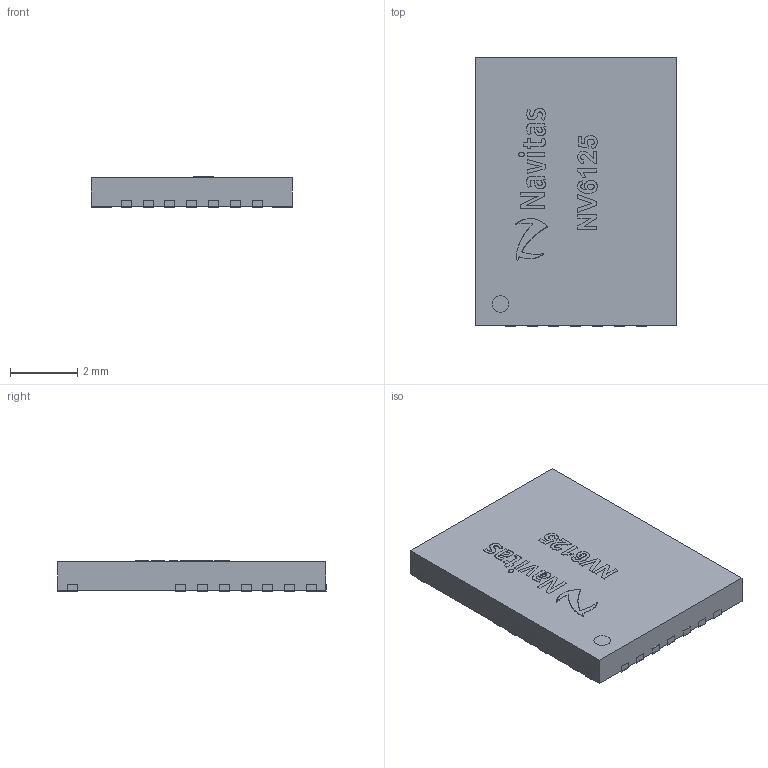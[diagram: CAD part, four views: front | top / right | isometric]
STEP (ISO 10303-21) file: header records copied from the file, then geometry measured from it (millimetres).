
FILE_DESCRIPTION(/* description */ (''),/* implementation_level */ '2;1');
FILE_NAME(/* name */ 'C:/Users/Tom/Documents/NV6125.stp',/* time_stamp */ '2020-03-02T11:00:06-08:00',/* author */ (''),/* organization */ (''),/* preprocessor_version */ 'ST-DEVELOPER v15.2',/* originating_system */ 'Autodesk Translator Framework v2.0.0.5431',/* authorisation */ '');
FILE_SCHEMA (('AUTOMOTIVE_DESIGN { 1 0 10303 214 3 1 1 }'));
Length unit declared in the file: centimetre
Products named in the file (1): NV6125
Bounding box: 6.02 x 8.02 x 0.9 mm (x, y, z)
Surface area: 190.8 mm2
Topology: 48 solids, 48 shells, 816 faces, 2160 edges, 1440 vertices
Faces by surface type: bspline 507, plane 308, cylinder 1
Full cylindrical faces by diameter (mm): 0.5 x1
Entity records: 29720 total; most frequent: CARTESIAN_POINT 13755, ORIENTED_EDGE 4318, EDGE_CURVE 2159, DIRECTION 1767, VERTEX_POINT 1440, LINE 1143, VECTOR 1143, EDGE_LOOP 823
